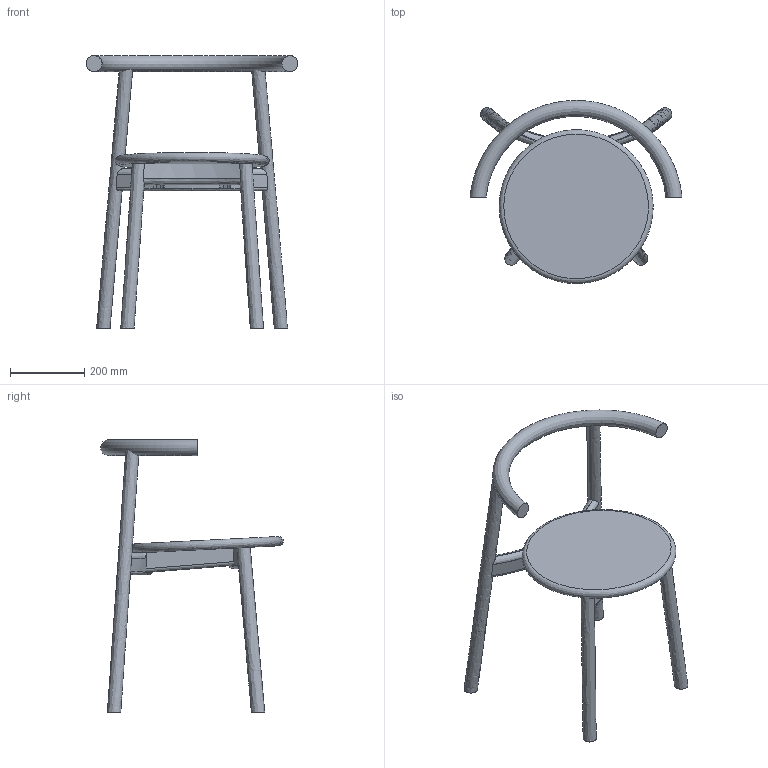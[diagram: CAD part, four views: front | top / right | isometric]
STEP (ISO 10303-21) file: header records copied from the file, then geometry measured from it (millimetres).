
FILE_DESCRIPTION(/* description */ (''),/* implementation_level */ '2;1');
FILE_NAME(/* name */ 'MC05_S~1',/* time_stamp */ '2021-05-04T09:47:46+02:00',/* author */ (''),/* organization */ (''),/* preprocessor_version */ 'ST-DEVELOPER v16.5',/* originating_system */ '',/* authorisation */ '');
FILE_SCHEMA (('AUTOMOTIVE_DESIGN'));
Length unit declared in the file: millimetre
Products named in the file (1): Document
Bounding box: 571.39 x 493.06 x 735.5 mm (x, y, z)
Volume: 4431071.3 mm3; surface area: 818899.5 mm2
Topology: 2 solids, 38 shells, 47 faces, 182 edges, 170 vertices
Faces by surface type: bspline 47
Entity records: 16011 total; most frequent: CARTESIAN_POINT 14234, B_SPLINE_CURVE_WITH_KNOTS 324, ORIENTED_EDGE 204, PCURVE 204, DEFINITIONAL_REPRESENTATION 204, SURFACE_CURVE 181, EDGE_CURVE 181, VERTEX_POINT 168
